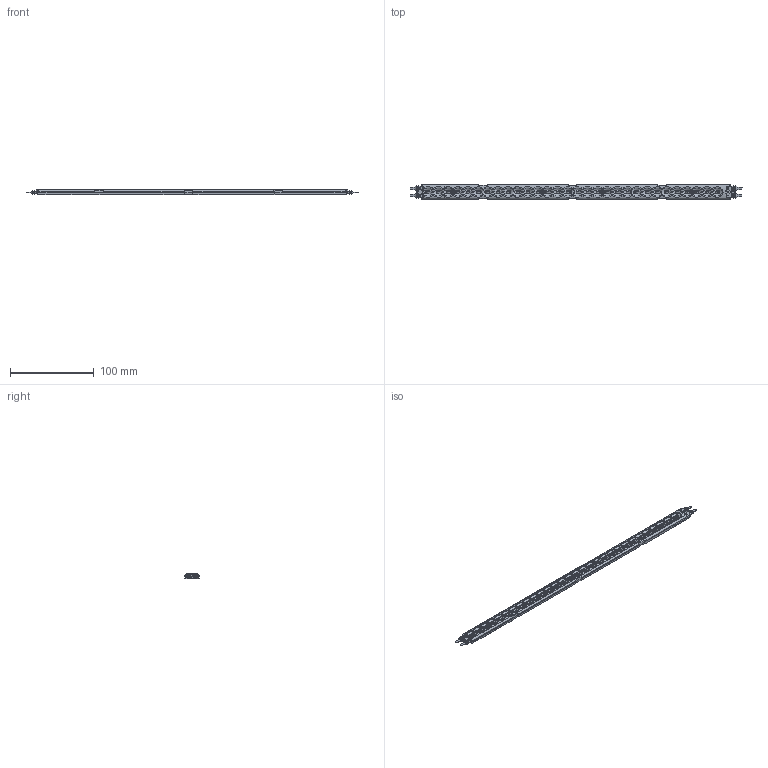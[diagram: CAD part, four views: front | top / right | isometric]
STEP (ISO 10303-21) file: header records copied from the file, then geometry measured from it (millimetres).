
FILE_DESCRIPTION (( 'STEP AP203' ), '1' );
FILE_NAME ('IL06281_2_BACKBONE V10.4 Flatback corner 14IN FINAL PART.STEP', '2026-03-27T14:48:11', ( '' ), ( '' ), 'SwSTEP 2.0', 'SolidWorks 2025', '' );
FILE_SCHEMA (( 'CONFIG_CONTROL_DESIGN' ));
Products named in the file (1): IL06281_2_BACKBONE V10.4 Flatback corner 14IN FINAL PART
Bounding box: 395.36 x 17 x 6.77 mm (x, y, z)
Volume: 34422.3 mm3; surface area: 17697.8 mm2
Topology: 1 solids, 1 shells, 2311 faces, 5773 edges, 3476 vertices
Faces by surface type: bspline 1128, sphere 327, plane 298, cylinder 278, cone 191, torus 89
Entity records: 101796 total; most frequent: CARTESIAN_POINT 56682, ORIENTED_EDGE 11538, DIRECTION 6771, EDGE_CURVE 5769, VERTEX_POINT 3476, AXIS2_PLACEMENT_3D 2965, B_SPLINE_CURVE_WITH_KNOTS 2860, EDGE_LOOP 2335
